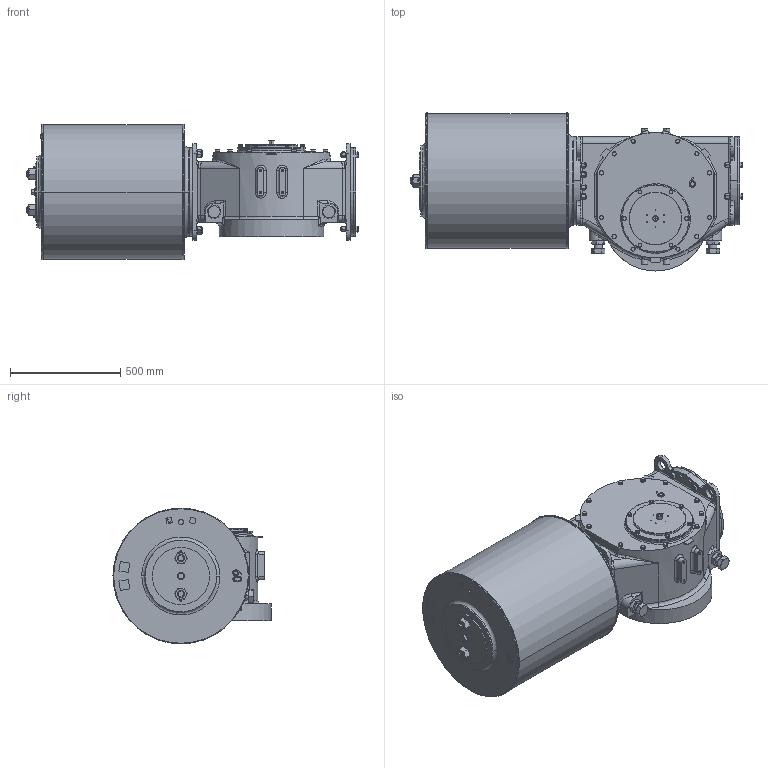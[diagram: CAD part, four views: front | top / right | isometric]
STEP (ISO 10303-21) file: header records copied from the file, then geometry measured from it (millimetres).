
FILE_DESCRIPTION (( 'STEP AP203' ), '1' );
FILE_NAME ('VTS6-600.STEP', '2023-01-01T10:01:52', ( '' ), ( '' ), 'SwSTEP 2.0', 'SolidWorks 2020', '' );
FILE_SCHEMA (( 'CONFIG_CONTROL_DESIGN' ));
Length unit declared in the file: millimetre
Products named in the file (1): VTS6-600
Bounding box: 1505.18 x 716.5 x 616 mm (x, y, z)
Volume: 311583093.8 mm3; surface area: 4483481.9 mm2
Topology: 3 solids, 5 shells, 1939 faces, 4975 edges, 3164 vertices
Faces by surface type: plane 815, cylinder 586, cone 451, bspline 87
Entity records: 72894 total; most frequent: CARTESIAN_POINT 26720, ORIENTED_EDGE 9846, DIRECTION 9460, EDGE_CURVE 4923, AXIS2_PLACEMENT_3D 3746, VERTEX_POINT 3164, EDGE_LOOP 2201, LINE 1968
